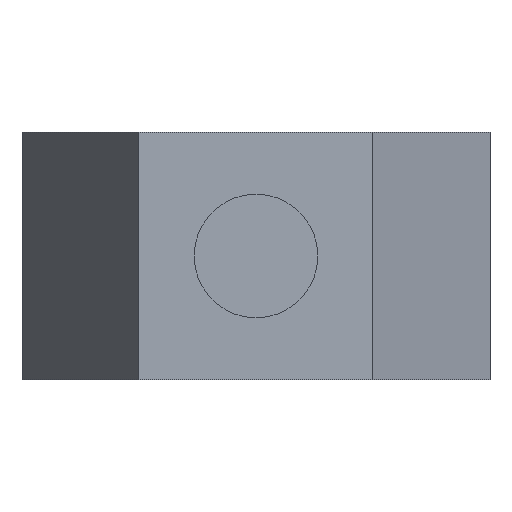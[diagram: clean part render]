
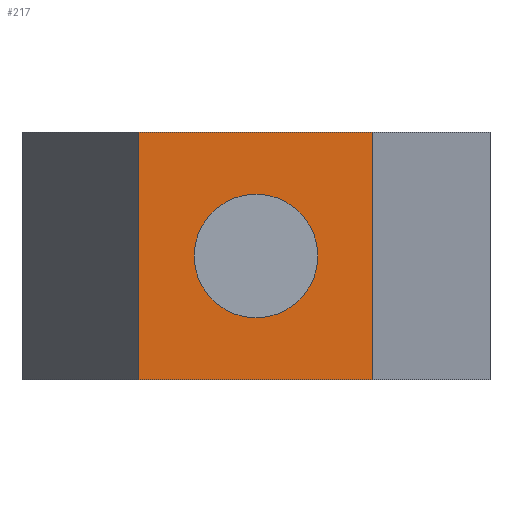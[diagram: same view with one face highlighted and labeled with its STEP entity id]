
A CAD part, left-side view. The second image highlights one B-rep face of the part: STEP entity #217.
In plain terms, the highlighted planar face has unit normal (-1, 0, 0).
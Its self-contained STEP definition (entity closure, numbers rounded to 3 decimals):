
#16=FACE_BOUND('',#52,.T.);
#24=PLANE('',#250);
#37=FACE_OUTER_BOUND('',#51,.T.);
#51=EDGE_LOOP('',(#181,#182,#183,#184));
#52=EDGE_LOOP('',(#185));
#65=LINE('',#346,#86);
#72=LINE('',#359,#93);
#73=LINE('',#362,#94);
#74=LINE('',#363,#95);
#86=VECTOR('',#287,10.);
#93=VECTOR('',#298,10.);
#94=VECTOR('',#301,10.);
#95=VECTOR('',#302,10.);
#105=CIRCLE('',#243,25.);
#111=VERTEX_POINT('',#330);
#116=VERTEX_POINT('',#343);
#117=VERTEX_POINT('',#345);
#121=VERTEX_POINT('',#357);
#122=VERTEX_POINT('',#361);
#131=EDGE_CURVE('',#111,#111,#105,.T.);
#137=EDGE_CURVE('',#116,#117,#65,.T.);
#144=EDGE_CURVE('',#116,#121,#72,.T.);
#145=EDGE_CURVE('',#122,#121,#73,.T.);
#146=EDGE_CURVE('',#117,#122,#74,.T.);
#181=ORIENTED_EDGE('',*,*,#144,.T.);
#182=ORIENTED_EDGE('',*,*,#145,.F.);
#183=ORIENTED_EDGE('',*,*,#146,.F.);
#184=ORIENTED_EDGE('',*,*,#137,.F.);
#185=ORIENTED_EDGE('',*,*,#131,.T.);
#217=ADVANCED_FACE('',(#37,#16),#24,.T.);
#243=AXIS2_PLACEMENT_3D('',#331,#273,#274);
#250=AXIS2_PLACEMENT_3D('',#360,#299,#300);
#273=DIRECTION('center_axis',(1.,0.,0.));
#274=DIRECTION('ref_axis',(0.,1.,0.));
#287=DIRECTION('',(0.,1.,0.));
#298=DIRECTION('',(0.,0.,1.));
#299=DIRECTION('center_axis',(-1.,0.,0.));
#300=DIRECTION('ref_axis',(0.,-1.,0.));
#301=DIRECTION('',(0.,-1.,0.));
#302=DIRECTION('',(0.,0.,1.));
#330=CARTESIAN_POINT('',(-82.,-25.,0.));
#331=CARTESIAN_POINT('Origin',(-82.,0.,0.));
#343=CARTESIAN_POINT('',(-82.,-47.343,-50.));
#345=CARTESIAN_POINT('',(-82.,47.343,-50.));
#346=CARTESIAN_POINT('',(-82.,47.343,-50.));
#357=CARTESIAN_POINT('',(-82.,-47.343,50.));
#359=CARTESIAN_POINT('',(-82.,-47.343,0.));
#360=CARTESIAN_POINT('Origin',(-82.,47.343,0.));
#361=CARTESIAN_POINT('',(-82.,47.343,50.));
#362=CARTESIAN_POINT('',(-82.,47.343,50.));
#363=CARTESIAN_POINT('',(-82.,47.343,0.));
